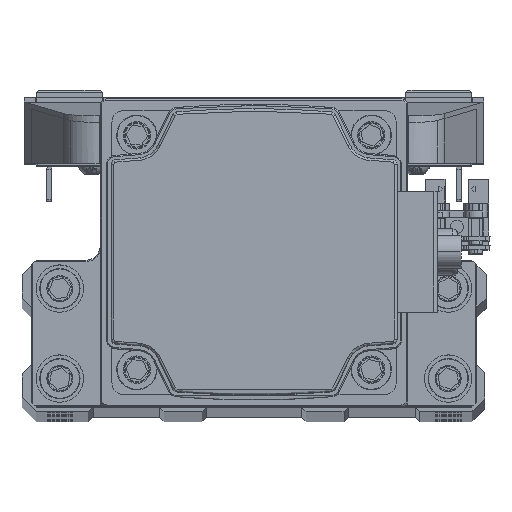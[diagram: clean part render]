
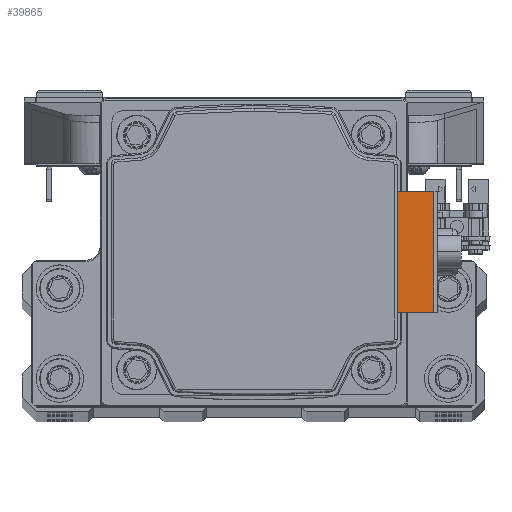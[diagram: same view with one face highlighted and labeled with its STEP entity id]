
A CAD part, top view. The second image highlights one B-rep face of the part: STEP entity #39865.
In plain terms, the highlighted planar face has unit normal (0, 0, 1) as drawn and (0, 0, -1) by its records, which use the part's own axes.
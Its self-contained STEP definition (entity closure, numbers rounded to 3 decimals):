
#1888 = EDGE_LOOP ( 'NONE', ( #15293, #43278, #49036, #13229 ) ) ;
#5623 = DIRECTION ( 'NONE',  ( 0., 1., 0. ) ) ;
#7920 = VECTOR ( 'NONE', #10144, 1000. ) ;
#8197 = DIRECTION ( 'NONE',  ( 0., 1., 0. ) ) ;
#10144 = DIRECTION ( 'NONE',  ( 1., 0., 0. ) ) ;
#10238 = LINE ( 'NONE', #15114, #25273 ) ;
#10454 = DIRECTION ( 'NONE',  ( -1., 0., 0. ) ) ;
#11994 = AXIS2_PLACEMENT_3D ( 'NONE', #29314, #44474, #10454 ) ;
#13229 = ORIENTED_EDGE ( 'NONE', *, *, #23124, .F. ) ;
#14163 = PLANE ( 'NONE',  #11994 ) ;
#15114 = CARTESIAN_POINT ( 'NONE',  ( 18.438, 30.2, -88.696 ) ) ;
#15293 = ORIENTED_EDGE ( 'NONE', *, *, #16704, .T. ) ;
#16704 = EDGE_CURVE ( 'NONE', #32922, #42720, #24490, .T. ) ;
#17561 = VERTEX_POINT ( 'NONE', #43991 ) ;
#23124 = EDGE_CURVE ( 'NONE', #32922, #36610, #10238, .T. ) ;
#24490 = LINE ( 'NONE', #39638, #44445 ) ;
#25273 = VECTOR ( 'NONE', #30264, 1000. ) ;
#27068 = LINE ( 'NONE', #42220, #38209 ) ;
#28498 = EDGE_CURVE ( 'NONE', #42720, #17561, #29016, .T. ) ;
#28728 = CARTESIAN_POINT ( 'NONE',  ( -12.75, 30.2, -88.696 ) ) ;
#29016 = LINE ( 'NONE', #44159, #7920 ) ;
#29314 = CARTESIAN_POINT ( 'NONE',  ( 0., 37.9, -88.696 ) ) ;
#30264 = DIRECTION ( 'NONE',  ( 1., 0., 0. ) ) ;
#30579 = CARTESIAN_POINT ( 'NONE',  ( 12.75, 30.2, -88.696 ) ) ;
#32922 = VERTEX_POINT ( 'NONE', #28728 ) ;
#36610 = VERTEX_POINT ( 'NONE', #30579 ) ;
#38209 = VECTOR ( 'NONE', #8197, 1000. ) ;
#38552 = CARTESIAN_POINT ( 'NONE',  ( -12.75, 37.9, -88.696 ) ) ;
#39638 = CARTESIAN_POINT ( 'NONE',  ( -12.75, 37.9, -88.696 ) ) ;
#39865 = ADVANCED_FACE ( 'NONE', ( #48190 ), #14163, .T. ) ;
#40601 = EDGE_CURVE ( 'NONE', #36610, #17561, #27068, .T. ) ;
#42220 = CARTESIAN_POINT ( 'NONE',  ( 12.75, 33.991, -88.696 ) ) ;
#42720 = VERTEX_POINT ( 'NONE', #38552 ) ;
#43278 = ORIENTED_EDGE ( 'NONE', *, *, #28498, .T. ) ;
#43991 = CARTESIAN_POINT ( 'NONE',  ( 12.75, 37.9, -88.696 ) ) ;
#44159 = CARTESIAN_POINT ( 'NONE',  ( 0., 37.9, -88.696 ) ) ;
#44445 = VECTOR ( 'NONE', #5623, 1000. ) ;
#44474 = DIRECTION ( 'NONE',  ( 0., 0., -1. ) ) ;
#48190 = FACE_OUTER_BOUND ( 'NONE', #1888, .T. ) ;
#49036 = ORIENTED_EDGE ( 'NONE', *, *, #40601, .F. ) ;
